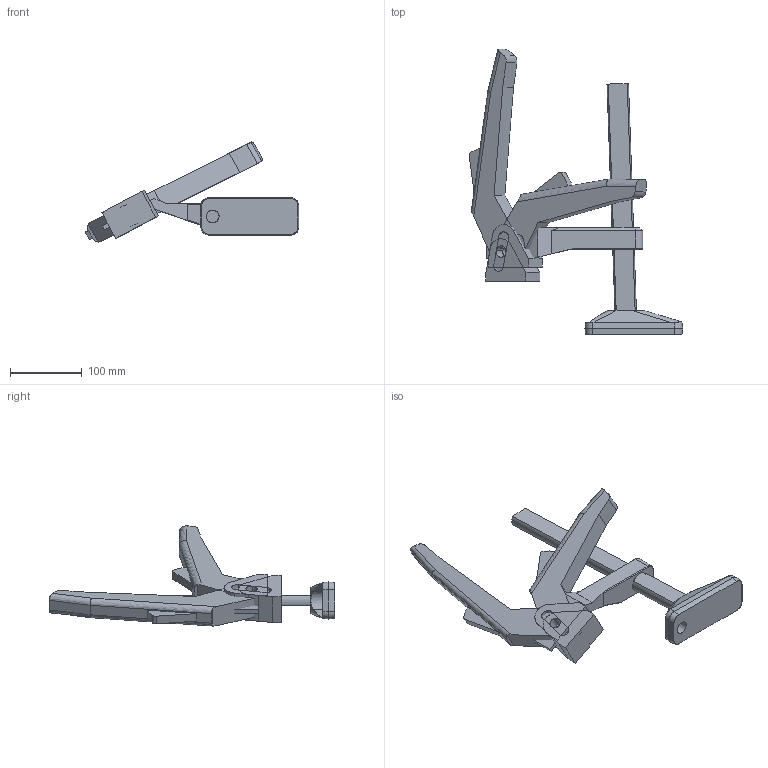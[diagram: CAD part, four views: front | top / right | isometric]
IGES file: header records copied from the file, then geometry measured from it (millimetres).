
Start section: VX Corporation
Global section: file name: BS5N001.igs; native system: VX; preprocessor: 1.0; author: VX; organization: VX CORP; date: 110208.114700; units: millimetre
Bounding box: 296.91 x 397.44 x 139.38 mm (x, y, z)
Surface area: 192134.6 mm2 (no closed solid volume)
Topology: 0 solids, 0 shells, 148 faces, 818 edges, 816 vertices
Faces by surface type: bspline 148
